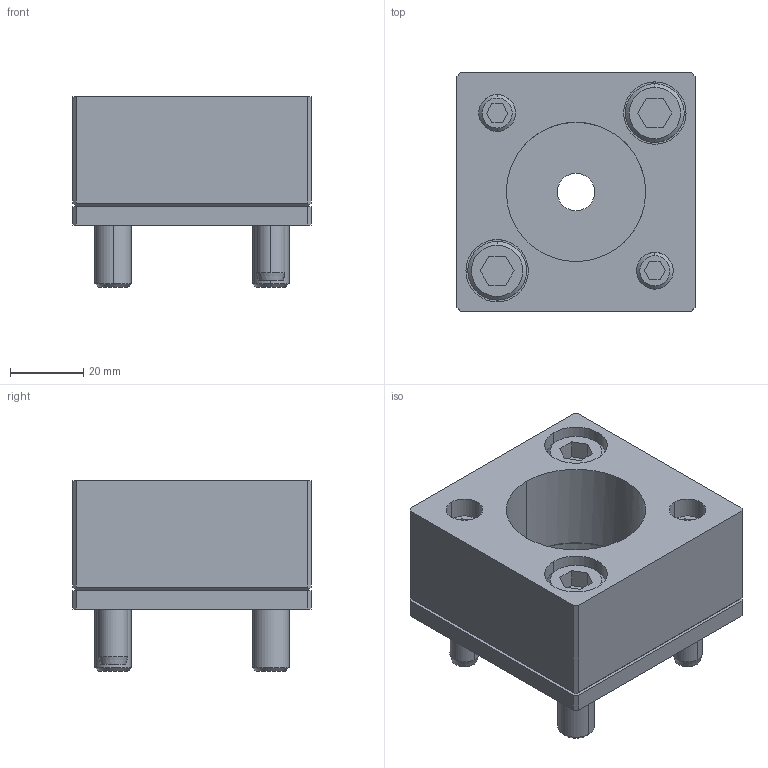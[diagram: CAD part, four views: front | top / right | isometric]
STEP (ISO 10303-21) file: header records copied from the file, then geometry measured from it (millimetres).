
FILE_DESCRIPTION(/* description */ (''),/* implementation_level */ '2;1');
FILE_NAME(/* name */ '3d_sr-fp38_05487_r00.stp',/* time_stamp */ '2011-01-10T14:09:57+09:00',/* author */ ('MISUMI'),/* organization */ (''),/* preprocessor_version */ 'ST-DEVELOPER v11',/* originating_system */ 'UGS - NX 5.0',/* authorisation */ '');
FILE_SCHEMA (('CONFIG_CONTROL_DESIGN'));
Length unit declared in the file: millimetre
Products named in the file (1): 3d_sr-fp38_05487_r00
Bounding box: 65 x 65 x 52 mm (x, y, z)
Volume: 111117.7 mm3; surface area: 38167.1 mm2
Topology: 8 solids, 8 shells, 159 faces, 365 edges, 236 vertices
Faces by surface type: plane 78, cylinder 55, cone 26
Entity records: 4643 total; most frequent: DIRECTION 815, CARTESIAN_POINT 806, ORIENTED_EDGE 730, EDGE_CURVE 365, AXIS2_PLACEMENT_3D 297, VERTEX_POINT 236, LINE 221, VECTOR 221
